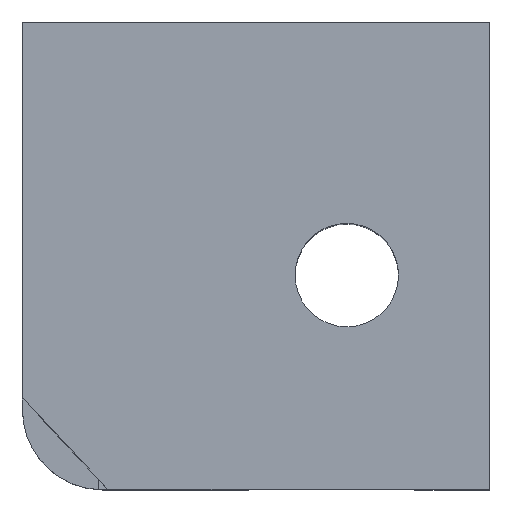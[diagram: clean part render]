
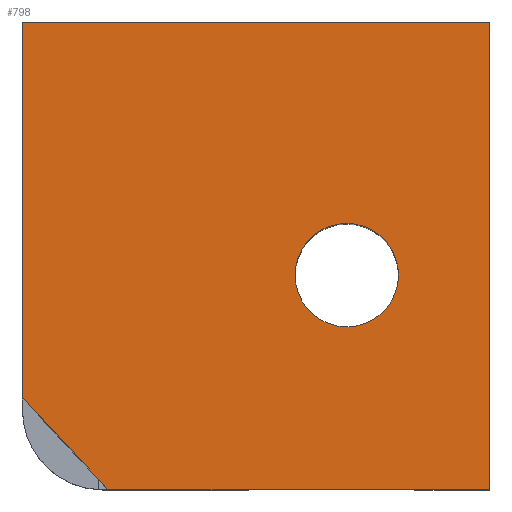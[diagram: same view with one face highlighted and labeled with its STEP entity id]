
A CAD part, top view. The second image highlights one B-rep face of the part: STEP entity #798.
In plain terms, the highlighted planar face has unit normal (0, 0, 1).
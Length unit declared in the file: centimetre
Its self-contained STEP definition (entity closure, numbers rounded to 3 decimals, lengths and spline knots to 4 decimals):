
#14 = AXIS2_PLACEMENT_3D ( 'NONE', #354, #62, #1017 ) ;
#31 = ORIENTED_EDGE ( 'NONE', *, *, #1075, .T. ) ;
#56 = DIRECTION ( 'NONE',  ( 1., 0., 0. ) ) ;
#58 = CARTESIAN_POINT ( 'NONE',  ( 0., 196.5953, 1000. ) ) ;
#62 = DIRECTION ( 'NONE',  ( 0., 0., 1. ) ) ;
#93 = CARTESIAN_POINT ( 'NONE',  ( 805.0702, 458.2528, 1000. ) ) ;
#120 = CARTESIAN_POINT ( 'NONE',  ( 1000., 1000., 1000. ) ) ;
#201 = LINE ( 'NONE', #1287, #616 ) ;
#205 = ORIENTED_EDGE ( 'NONE', *, *, #839, .F. ) ;
#230 = VERTEX_POINT ( 'NONE', #275 ) ;
#231 = LINE ( 'NONE', #440, #477 ) ;
#251 = AXIS2_PLACEMENT_3D ( 'NONE', #466, #890, #56 ) ;
#275 = CARTESIAN_POINT ( 'NONE',  ( 1000., 1000., 1000. ) ) ;
#276 = CIRCLE ( 'NONE', #251, 110.7265 ) ;
#333 = EDGE_LOOP ( 'NONE', ( #205, #506 ) ) ;
#344 = VERTEX_POINT ( 'NONE', #58 ) ;
#354 = CARTESIAN_POINT ( 'NONE',  ( 0., 0., 1000. ) ) ;
#373 = CARTESIAN_POINT ( 'NONE',  ( 694.3438, 458.2528, 1000. ) ) ;
#390 = LINE ( 'NONE', #1243, #1156 ) ;
#421 = CARTESIAN_POINT ( 'NONE',  ( 583.6173, 458.2528, 1000. ) ) ;
#423 = EDGE_LOOP ( 'NONE', ( #946, #465, #31, #613, #1032 ) ) ;
#440 = CARTESIAN_POINT ( 'NONE',  ( 0., 1000., 1000. ) ) ;
#454 = FACE_BOUND ( 'NONE', #333, .T. ) ;
#465 = ORIENTED_EDGE ( 'NONE', *, *, #780, .T. ) ;
#466 = CARTESIAN_POINT ( 'NONE',  ( 694.3438, 458.2528, 1000. ) ) ;
#477 = VECTOR ( 'NONE', #769, 100. ) ;
#506 = ORIENTED_EDGE ( 'NONE', *, *, #868, .F. ) ;
#554 = VERTEX_POINT ( 'NONE', #598 ) ;
#562 = DIRECTION ( 'NONE',  ( 0., -1., 0. ) ) ;
#570 = CARTESIAN_POINT ( 'NONE',  ( 0., 1000., 1000. ) ) ;
#598 = CARTESIAN_POINT ( 'NONE',  ( 1000., 0., 1000. ) ) ;
#608 = DIRECTION ( 'NONE',  ( 0., 0., 1. ) ) ;
#613 = ORIENTED_EDGE ( 'NONE', *, *, #1061, .T. ) ;
#616 = VECTOR ( 'NONE', #981, 100. ) ;
#688 = EDGE_CURVE ( 'NONE', #764, #344, #1202, .T. ) ;
#764 = VERTEX_POINT ( 'NONE', #943 ) ;
#769 = DIRECTION ( 'NONE',  ( -1., 0., 0. ) ) ;
#780 = EDGE_CURVE ( 'NONE', #1143, #554, #201, .T. ) ;
#787 = VECTOR ( 'NONE', #562, 100. ) ;
#798 = ADVANCED_FACE ( 'NONE', ( #1294, #454 ), #876, .T. ) ;
#839 = EDGE_CURVE ( 'NONE', #918, #962, #276, .T. ) ;
#854 = DIRECTION ( 'NONE',  ( 0., 1., 0. ) ) ;
#868 = EDGE_CURVE ( 'NONE', #962, #918, #1002, .T. ) ;
#876 = PLANE ( 'NONE',  #14 ) ;
#890 = DIRECTION ( 'NONE',  ( 0., 0., 1. ) ) ;
#918 = VERTEX_POINT ( 'NONE', #93 ) ;
#935 = AXIS2_PLACEMENT_3D ( 'NONE', #373, #608, #1101 ) ;
#943 = CARTESIAN_POINT ( 'NONE',  ( 0., 1000., 1000. ) ) ;
#946 = ORIENTED_EDGE ( 'NONE', *, *, #1355, .F. ) ;
#962 = VERTEX_POINT ( 'NONE', #421 ) ;
#981 = DIRECTION ( 'NONE',  ( 1., 0., 0. ) ) ;
#1002 = CIRCLE ( 'NONE', #935, 110.7265 ) ;
#1017 = DIRECTION ( 'NONE',  ( 1., 0., 0. ) ) ;
#1032 = ORIENTED_EDGE ( 'NONE', *, *, #688, .T. ) ;
#1044 = DIRECTION ( 'NONE',  ( -0.681, 0.732, 0. ) ) ;
#1061 = EDGE_CURVE ( 'NONE', #230, #764, #231, .T. ) ;
#1075 = EDGE_CURVE ( 'NONE', #554, #230, #1291, .T. ) ;
#1101 = DIRECTION ( 'NONE',  ( 1., 0., 0. ) ) ;
#1143 = VERTEX_POINT ( 'NONE', #1174 ) ;
#1156 = VECTOR ( 'NONE', #1044, 100. ) ;
#1174 = CARTESIAN_POINT ( 'NONE',  ( 182.7351, 0., 1000. ) ) ;
#1202 = LINE ( 'NONE', #570, #787 ) ;
#1243 = CARTESIAN_POINT ( 'NONE',  ( 0., 196.5953, 1000. ) ) ;
#1287 = CARTESIAN_POINT ( 'NONE',  ( 0., 0., 1000. ) ) ;
#1291 = LINE ( 'NONE', #120, #1299 ) ;
#1294 = FACE_OUTER_BOUND ( 'NONE', #423, .T. ) ;
#1299 = VECTOR ( 'NONE', #854, 100. ) ;
#1355 = EDGE_CURVE ( 'NONE', #1143, #344, #390, .T. ) ;
